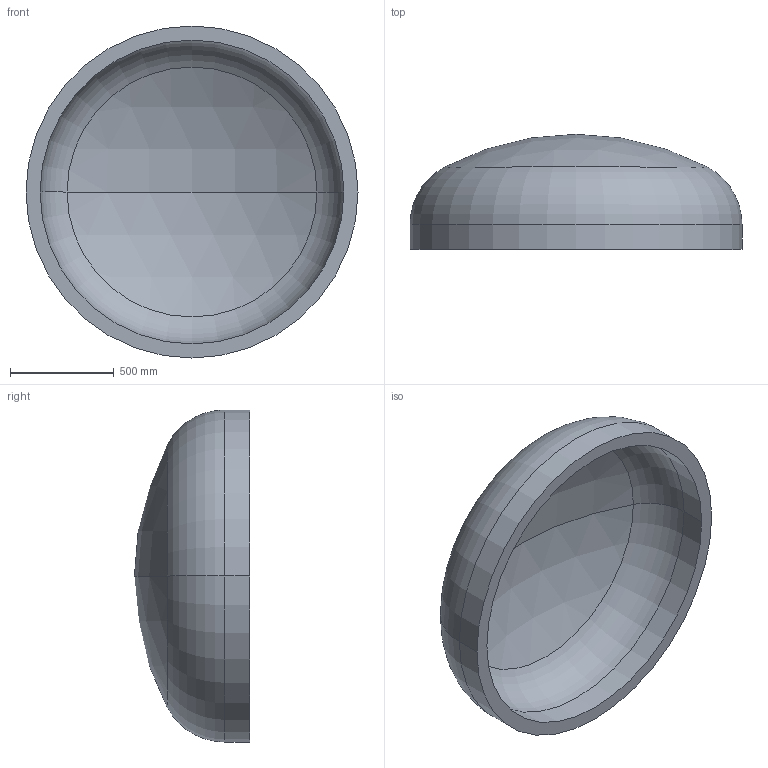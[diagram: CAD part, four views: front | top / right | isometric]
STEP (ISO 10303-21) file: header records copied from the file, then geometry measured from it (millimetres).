
FILE_DESCRIPTION (( 'STEP AP203' ), '1' );
FILE_NAME ('DIN 28013 Korbbogenform_-_Boden DIN 28013 - 1600 x 120 - I - s=68.step', '2016-07-01T11:23:19', ( '' ), ( '' ), 'SwSTEP 2.0', 'SolidWorks 2013', '' );
FILE_SCHEMA (( 'CONFIG_CONTROL_DESIGN' ));
Length unit declared in the file: millimetre
Products named in the file (1): DIN 28013 Korbbogenform_-_Boden DIN 28013 - 1600 x 120 - I - s=68
Bounding box: 1600 x 554.73 x 1600 mm (x, y, z)
Volume: 218299479.5 mm3; surface area: 6757534.2 mm2
Topology: 1 solids, 1 shells, 13 faces, 24 edges, 14 vertices
Faces by surface type: torus 4, cylinder 4, sphere 4, plane 1
Entity records: 407 total; most frequent: DIRECTION 72, CARTESIAN_POINT 52, ORIENTED_EDGE 48, AXIS2_PLACEMENT_3D 34, EDGE_CURVE 24, CIRCLE 20, VERTEX_POINT 14, EDGE_LOOP 14
